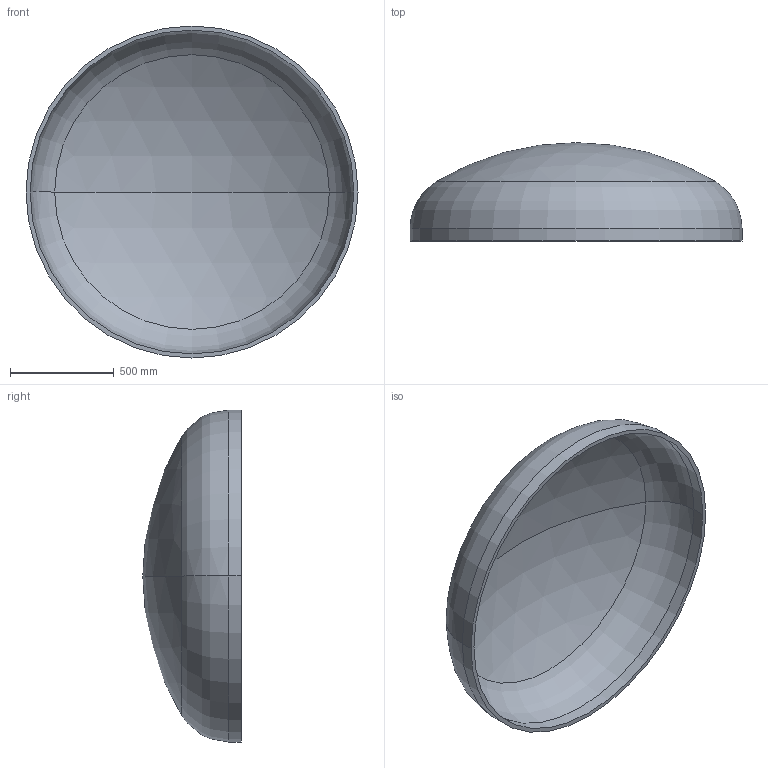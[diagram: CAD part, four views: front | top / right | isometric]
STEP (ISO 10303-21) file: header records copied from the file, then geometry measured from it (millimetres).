
FILE_DESCRIPTION (( 'STEP AP203' ), '1' );
FILE_NAME ('DIN 28013 Korbbogenform_-_Boden DIN 28013 - 1600 x 60 - I - s=20.step', '2016-07-01T11:08:16', ( '' ), ( '' ), 'SwSTEP 2.0', 'SolidWorks 2013', '' );
FILE_SCHEMA (( 'CONFIG_CONTROL_DESIGN' ));
Length unit declared in the file: millimetre
Products named in the file (1): DIN 28013 Korbbogenform_-_Boden DIN 28013 - 1600 x 60 - I - s=20
Bounding box: 1600 x 474 x 1600 mm (x, y, z)
Volume: 60676046.7 mm3; surface area: 6167714.6 mm2
Topology: 1 solids, 1 shells, 13 faces, 24 edges, 14 vertices
Faces by surface type: torus 4, cylinder 4, sphere 4, plane 1
Entity records: 407 total; most frequent: DIRECTION 72, CARTESIAN_POINT 52, ORIENTED_EDGE 48, AXIS2_PLACEMENT_3D 34, EDGE_CURVE 24, CIRCLE 20, EDGE_LOOP 14, VERTEX_POINT 14
